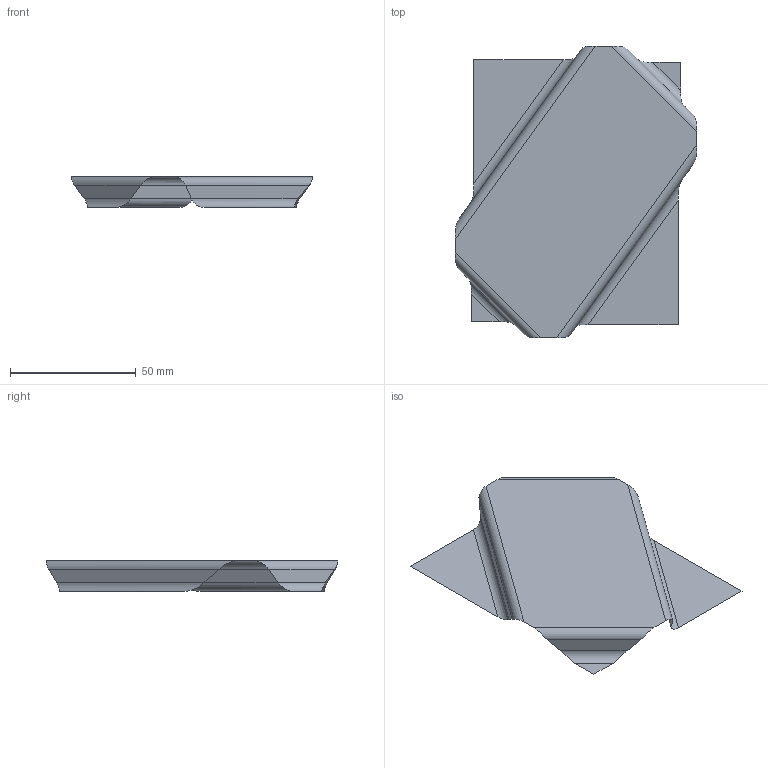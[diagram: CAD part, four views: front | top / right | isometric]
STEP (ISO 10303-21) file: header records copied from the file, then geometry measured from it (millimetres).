
FILE_DESCRIPTION(('CATIA V5 STEP Exchange'),'2;1');
FILE_NAME('C:\_Andres\UNIVERSIDAD\IQS\ASIGNATURAS\DAO\EXF\EXF-15161c\1original\Esteva_Esteve_Ej03-chapa_v6.stp','2016-03-04T16:55:43+00:00',('none'),('none'),'CATIA Version 5 Release 20 SP 1 (IN-10)','CATIA V5 STEP AP203','none');
FILE_SCHEMA(('CONFIG_CONTROL_DESIGN'));
Length unit declared in the file: millimetre
Products named in the file (1): Esteva_Esteve_Ej03-chapa_v6
Bounding box: 96.01 x 116.01 x 12.29 mm (x, y, z)
Surface area: 11174.2 mm2 (no closed solid volume)
Topology: 0 solids, 1 shells, 17 faces, 52 edges, 36 vertices
Faces by surface type: plane 9, cylinder 8
Entity records: 622 total; most frequent: CARTESIAN_POINT 203, ORIENTED_EDGE 68, DIRECTION 56, EDGE_CURVE 52, VERTEX_POINT 36, B_SPLINE_CURVE_WITH_KNOTS 32, VECTOR 20, LINE 20
